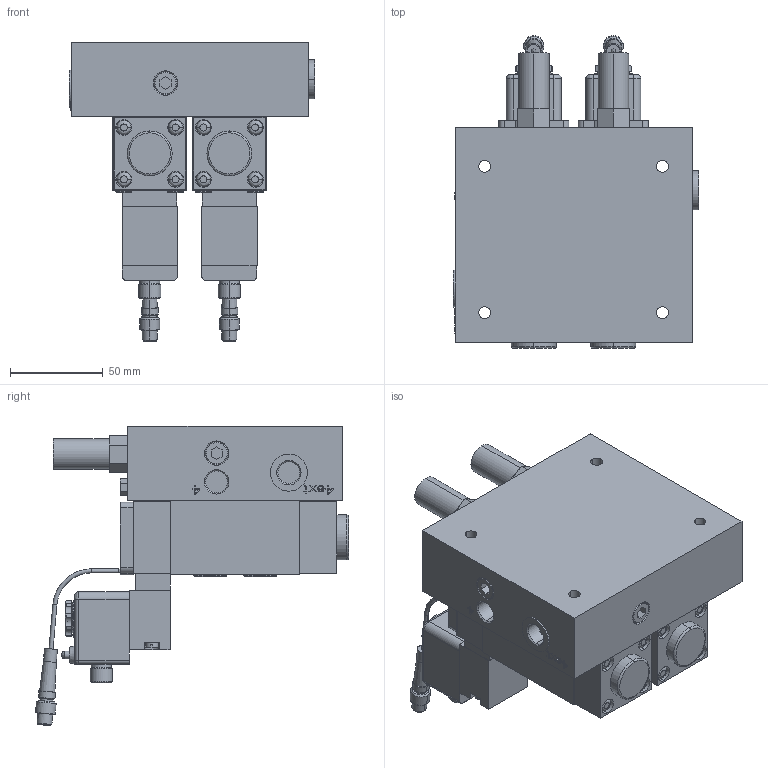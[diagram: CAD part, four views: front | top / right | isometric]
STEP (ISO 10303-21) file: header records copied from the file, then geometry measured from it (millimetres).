
FILE_DESCRIPTION((''),'2;1');
FILE_NAME('R422003189_ASM','2024-06-04T17:41:23',('GND7HC'),(''),'CREO PARAMETRIC BY PTC INC, 2023092','CREO PARAMETRIC BY PTC INC, 2023092','');
FILE_SCHEMA(('CONFIG_CONTROL_DESIGN','SHAPE_APPEARANCE_LAYERS_GROUPS'));
Length unit declared in the file: millimetre
Products named in the file (4): R422003189-C; R422003189-A; R422003189-B; R422003189_ASM
Assembly tree (5 placements, depth 2):
  R422003189_ASM
    R422003189-C
    R422003189-A  x2
    R422003189-B  x2
Bounding box: 132.35 x 169.04 x 161.65 mm (x, y, z)
Volume: 1070400.1 mm3; surface area: 155908.9 mm2
Topology: 5 solids, 8 shells, 1469 faces, 3540 edges, 2288 vertices
Faces by surface type: plane 829, cylinder 440, cone 120, bspline 46, torus 30, sphere 4
Entity records: 40433 total; most frequent: CARTESIAN_POINT 5655, DIRECTION 4854, ORIENTED_EDGE 4652, PRESENTATION_STYLE_ASSIGNMENT 2718, STYLED_ITEM 2329, CURVE_STYLE 2326, EDGE_CURVE 2326, VECTOR 1630
